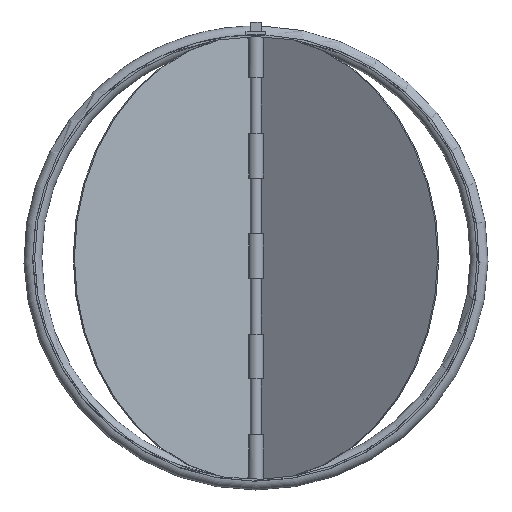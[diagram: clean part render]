
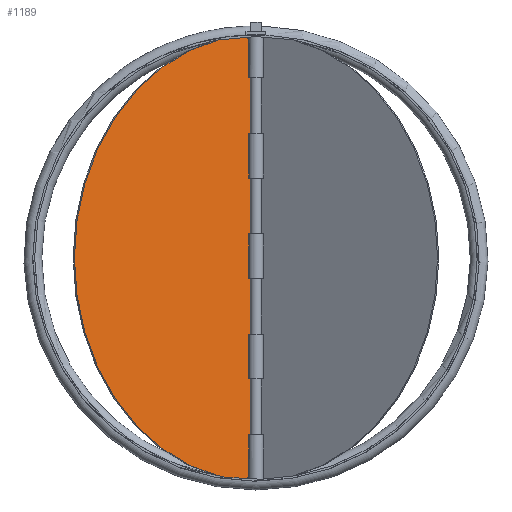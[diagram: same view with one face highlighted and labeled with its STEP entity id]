
A CAD part, front view. The second image highlights one B-rep face of the part: STEP entity #1189.
In plain terms, the highlighted planar face has unit normal (0.574, -0.819, 0).
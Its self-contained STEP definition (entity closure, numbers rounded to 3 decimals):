
#27=ELLIPSE('',#1295,12.348,6.666);
#28=ELLIPSE('',#1296,189.22,155.);
#29=ELLIPSE('',#1297,189.22,155.);
#30=ELLIPSE('',#1298,12.348,6.666);
#110=CIRCLE('',#1293,156.25);
#169=FACE_OUTER_BOUND('',#240,.T.);
#240=EDGE_LOOP('',(#903,#904,#905,#906,#907,#908,#909,#910,#911,#912,#913,
#914,#915,#916,#917,#918,#919,#920,#921,#922,#923,#924));
#318=LINE('',#1827,#407);
#320=LINE('',#1836,#409);
#322=LINE('',#1845,#411);
#324=LINE('',#1854,#413);
#326=LINE('',#1862,#415);
#328=LINE('',#1868,#417);
#330=LINE('',#1874,#419);
#342=LINE('',#1907,#431);
#360=LINE('',#1979,#449);
#361=LINE('',#1980,#450);
#362=LINE('',#1982,#451);
#363=LINE('',#1983,#452);
#364=LINE('',#1985,#453);
#365=LINE('',#1986,#454);
#366=LINE('',#1988,#455);
#367=LINE('',#1990,#456);
#368=LINE('',#1998,#457);
#407=VECTOR('',#1448,10.);
#409=VECTOR('',#1456,10.);
#411=VECTOR('',#1464,10.);
#413=VECTOR('',#1472,10.);
#415=VECTOR('',#1480,10.);
#417=VECTOR('',#1486,10.);
#419=VECTOR('',#1492,10.);
#431=VECTOR('',#1520,10.);
#449=VECTOR('',#1556,10.);
#450=VECTOR('',#1557,10.);
#451=VECTOR('',#1558,10.);
#452=VECTOR('',#1559,10.);
#453=VECTOR('',#1560,10.);
#454=VECTOR('',#1561,10.);
#455=VECTOR('',#1562,10.);
#456=VECTOR('',#1563,10.);
#457=VECTOR('',#1572,10.);
#493=VERTEX_POINT('',#1825);
#494=VERTEX_POINT('',#1826);
#497=VERTEX_POINT('',#1834);
#498=VERTEX_POINT('',#1835);
#501=VERTEX_POINT('',#1843);
#502=VERTEX_POINT('',#1844);
#505=VERTEX_POINT('',#1852);
#506=VERTEX_POINT('',#1853);
#509=VERTEX_POINT('',#1861);
#511=VERTEX_POINT('',#1867);
#513=VERTEX_POINT('',#1873);
#526=VERTEX_POINT('',#1906);
#549=VERTEX_POINT('',#1966);
#550=VERTEX_POINT('',#1971);
#551=VERTEX_POINT('',#1978);
#552=VERTEX_POINT('',#1981);
#553=VERTEX_POINT('',#1984);
#554=VERTEX_POINT('',#1987);
#555=VERTEX_POINT('',#1989);
#556=VERTEX_POINT('',#1991);
#557=VERTEX_POINT('',#1994);
#558=VERTEX_POINT('',#1996);
#620=EDGE_CURVE('',#493,#494,#318,.T.);
#624=EDGE_CURVE('',#497,#498,#320,.T.);
#628=EDGE_CURVE('',#501,#502,#322,.T.);
#632=EDGE_CURVE('',#505,#506,#324,.T.);
#636=EDGE_CURVE('',#505,#509,#326,.T.);
#639=EDGE_CURVE('',#501,#511,#328,.T.);
#642=EDGE_CURVE('',#497,#513,#330,.T.);
#660=EDGE_CURVE('',#493,#526,#342,.T.);
#686=EDGE_CURVE('',#550,#549,#110,.T.);
#687=EDGE_CURVE('',#551,#506,#360,.T.);
#688=EDGE_CURVE('',#511,#551,#361,.T.);
#689=EDGE_CURVE('',#552,#502,#362,.T.);
#690=EDGE_CURVE('',#513,#552,#363,.T.);
#691=EDGE_CURVE('',#553,#498,#364,.T.);
#692=EDGE_CURVE('',#526,#553,#365,.T.);
#693=EDGE_CURVE('',#554,#494,#366,.T.);
#694=EDGE_CURVE('',#555,#554,#367,.T.);
#695=EDGE_CURVE('',#556,#555,#27,.T.);
#696=EDGE_CURVE('',#549,#556,#28,.T.);
#697=EDGE_CURVE('',#557,#550,#29,.T.);
#698=EDGE_CURVE('',#558,#557,#30,.T.);
#699=EDGE_CURVE('',#509,#558,#368,.T.);
#903=ORIENTED_EDGE('',*,*,#632,.T.);
#904=ORIENTED_EDGE('',*,*,#687,.F.);
#905=ORIENTED_EDGE('',*,*,#688,.F.);
#906=ORIENTED_EDGE('',*,*,#639,.F.);
#907=ORIENTED_EDGE('',*,*,#628,.T.);
#908=ORIENTED_EDGE('',*,*,#689,.F.);
#909=ORIENTED_EDGE('',*,*,#690,.F.);
#910=ORIENTED_EDGE('',*,*,#642,.F.);
#911=ORIENTED_EDGE('',*,*,#624,.T.);
#912=ORIENTED_EDGE('',*,*,#691,.F.);
#913=ORIENTED_EDGE('',*,*,#692,.F.);
#914=ORIENTED_EDGE('',*,*,#660,.F.);
#915=ORIENTED_EDGE('',*,*,#620,.T.);
#916=ORIENTED_EDGE('',*,*,#693,.F.);
#917=ORIENTED_EDGE('',*,*,#694,.F.);
#918=ORIENTED_EDGE('',*,*,#695,.F.);
#919=ORIENTED_EDGE('',*,*,#696,.F.);
#920=ORIENTED_EDGE('',*,*,#686,.F.);
#921=ORIENTED_EDGE('',*,*,#697,.F.);
#922=ORIENTED_EDGE('',*,*,#698,.F.);
#923=ORIENTED_EDGE('',*,*,#699,.F.);
#924=ORIENTED_EDGE('',*,*,#636,.F.);
#1141=PLANE('',#1294);
#1189=ADVANCED_FACE('',(#169),#1141,.F.);
#1293=AXIS2_PLACEMENT_3D('',#1976,#1552,#1553);
#1294=AXIS2_PLACEMENT_3D('',#1977,#1554,#1555);
#1295=AXIS2_PLACEMENT_3D('',#1992,#1564,#1565);
#1296=AXIS2_PLACEMENT_3D('',#1993,#1566,#1567);
#1297=AXIS2_PLACEMENT_3D('',#1995,#1568,#1569);
#1298=AXIS2_PLACEMENT_3D('',#1997,#1570,#1571);
#1448=DIRECTION('',(0.,0.,1.));
#1456=DIRECTION('',(0.,0.,1.));
#1464=DIRECTION('',(0.,0.,1.));
#1472=DIRECTION('',(0.,0.,1.));
#1480=DIRECTION('',(-0.819,-0.574,0.));
#1486=DIRECTION('',(-0.819,-0.574,0.));
#1492=DIRECTION('',(-0.819,-0.574,0.));
#1520=DIRECTION('',(-0.819,-0.574,0.));
#1552=DIRECTION('center_axis',(-0.574,0.819,0.));
#1553=DIRECTION('ref_axis',(0.,0.,-1.));
#1554=DIRECTION('center_axis',(-0.574,0.819,0.));
#1555=DIRECTION('ref_axis',(0.,0.,1.));
#1556=DIRECTION('',(0.819,0.574,0.));
#1557=DIRECTION('',(0.,0.,-1.));
#1558=DIRECTION('',(0.819,0.574,0.));
#1559=DIRECTION('',(0.,0.,-1.));
#1560=DIRECTION('',(0.819,0.574,0.));
#1561=DIRECTION('',(0.,0.,-1.));
#1562=DIRECTION('',(0.819,0.574,0.));
#1563=DIRECTION('',(0.,0.,-1.));
#1564=DIRECTION('center_axis',(0.574,-0.819,0.));
#1565=DIRECTION('ref_axis',(0.818,0.572,0.063));
#1566=DIRECTION('center_axis',(-0.574,0.819,0.));
#1567=DIRECTION('ref_axis',(0.819,0.574,0.));
#1568=DIRECTION('center_axis',(-0.574,0.819,0.));
#1569=DIRECTION('ref_axis',(0.819,0.574,0.));
#1570=DIRECTION('center_axis',(0.574,-0.819,0.));
#1571=DIRECTION('ref_axis',(0.818,0.572,-0.063));
#1572=DIRECTION('',(0.,0.,-1.));
#1825=CARTESIAN_POINT('',(-3.846,-4.524,87.188));
#1826=CARTESIAN_POINT('',(-3.846,-4.524,126.25));
#1827=CARTESIAN_POINT('',(-3.846,-4.524,-155.));
#1834=CARTESIAN_POINT('',(-3.846,-4.524,16.875));
#1835=CARTESIAN_POINT('',(-3.846,-4.524,55.938));
#1836=CARTESIAN_POINT('',(-3.846,-4.524,-155.));
#1843=CARTESIAN_POINT('',(-3.846,-4.524,-53.438));
#1844=CARTESIAN_POINT('',(-3.846,-4.524,-14.375));
#1845=CARTESIAN_POINT('',(-3.846,-4.524,-155.));
#1852=CARTESIAN_POINT('',(-3.846,-4.524,-123.75));
#1853=CARTESIAN_POINT('',(-3.846,-4.524,-84.688));
#1854=CARTESIAN_POINT('',(-3.846,-4.524,-155.));
#1861=CARTESIAN_POINT('',(-5.202,-5.473,-123.75));
#1862=CARTESIAN_POINT('',(-22.4,-17.516,-123.75));
#1867=CARTESIAN_POINT('',(-5.202,-5.473,-53.438));
#1868=CARTESIAN_POINT('',(-22.4,-17.516,-53.438));
#1873=CARTESIAN_POINT('',(-5.202,-5.473,16.875));
#1874=CARTESIAN_POINT('',(-22.4,-17.516,16.875));
#1906=CARTESIAN_POINT('',(-5.202,-5.473,87.188));
#1907=CARTESIAN_POINT('',(-22.4,-17.516,87.188));
#1966=CARTESIAN_POINT('',(-25.636,-19.782,152.865));
#1971=CARTESIAN_POINT('',(-25.636,-19.782,-152.865));
#1976=CARTESIAN_POINT('Origin',(0.86,-1.229,0.));
#1977=CARTESIAN_POINT('Origin',(-43.213,-32.089,0.));
#1978=CARTESIAN_POINT('',(-5.202,-5.473,-84.688));
#1979=CARTESIAN_POINT('',(-22.4,-17.516,-84.688));
#1980=CARTESIAN_POINT('',(-5.202,-5.473,-84.688));
#1981=CARTESIAN_POINT('',(-5.202,-5.473,-14.375));
#1982=CARTESIAN_POINT('',(-22.4,-17.516,-14.375));
#1983=CARTESIAN_POINT('',(-5.202,-5.473,-14.375));
#1984=CARTESIAN_POINT('',(-5.202,-5.473,55.938));
#1985=CARTESIAN_POINT('',(-22.4,-17.516,55.938));
#1986=CARTESIAN_POINT('',(-5.202,-5.473,55.938));
#1987=CARTESIAN_POINT('',(-5.202,-5.473,126.25));
#1988=CARTESIAN_POINT('',(-22.4,-17.516,126.25));
#1989=CARTESIAN_POINT('',(-5.202,-5.473,153.144));
#1990=CARTESIAN_POINT('',(-5.202,-5.473,126.25));
#1991=CARTESIAN_POINT('',(-6.13,-6.124,154.879));
#1992=CARTESIAN_POINT('Origin',(3.79,0.823,156.674));
#1993=CARTESIAN_POINT('Origin',(0.,-1.831,0.));
#1994=CARTESIAN_POINT('',(-6.13,-6.124,-154.879));
#1995=CARTESIAN_POINT('Origin',(0.,-1.831,0.));
#1996=CARTESIAN_POINT('',(-5.202,-5.473,-153.144));
#1997=CARTESIAN_POINT('Origin',(3.79,0.823,-156.674));
#1998=CARTESIAN_POINT('',(-5.202,-5.473,-155.));
